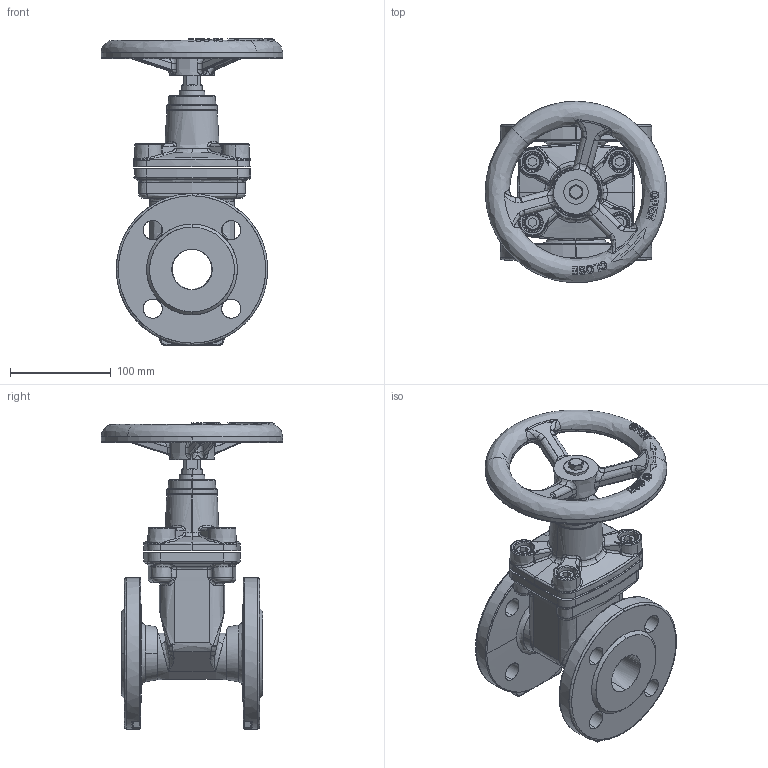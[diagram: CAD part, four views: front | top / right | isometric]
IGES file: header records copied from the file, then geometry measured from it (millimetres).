
Start section: SolidWorks IGES file using analytic representation for surfaces
Global section: file name: H:\BE BIBLIOTHEQUE 3D\BE SECTION 09 - ROBINETS ADDUCTION EAU\VO - Vanne opercule caoutchouc\VOC 4241C\JINMAO\CAO\VOC4241C-00\DN 40\VOC4241C-00EP0040.IGS; native system: SolidWorks 2020; preprocessor: SolidWorks 2020; author: k.gigout; date: 211117.160504; units: millimetre
Bounding box: 180 x 179.98 x 303.5 mm (x, y, z)
Surface area: 239108.5 mm2 (no closed solid volume)
Topology: 0 solids, 0 shells, 910 faces, 11623 edges, 11611 vertices
Faces by surface type: bspline 707, revolution 203
